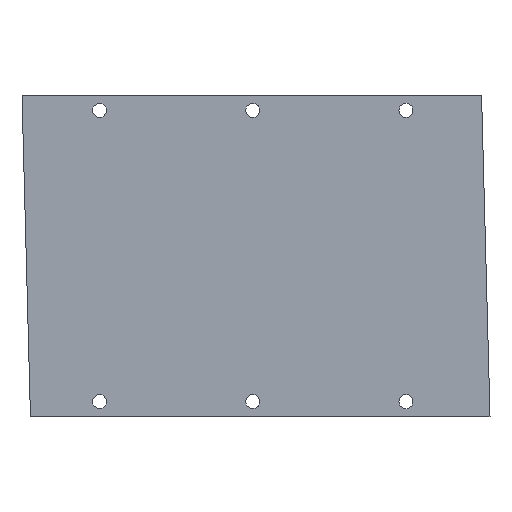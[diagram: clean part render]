
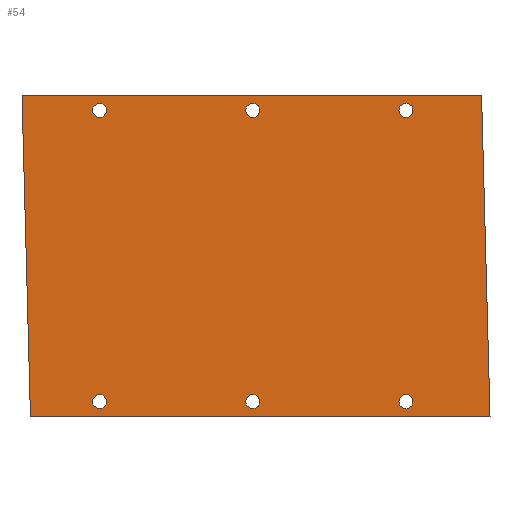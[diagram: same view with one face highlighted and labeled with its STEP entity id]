
A CAD part, front view. The second image highlights one B-rep face of the part: STEP entity #54.
In plain terms, the highlighted planar face has unit normal (0, -1, 0).
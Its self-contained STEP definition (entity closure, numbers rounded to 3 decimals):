
#3 = EDGE_LOOP ( 'NONE', ( #992, #651 ) ) ;
#9 = EDGE_CURVE ( 'NONE', #818, #912, #562, .T. ) ;
#16 = AXIS2_PLACEMENT_3D ( 'NONE', #666, #672, #771 ) ;
#20 = FACE_OUTER_BOUND ( 'NONE', #51, .T. ) ;
#27 = CARTESIAN_POINT ( 'NONE',  ( 60.37, 0., -59.75 ) ) ;
#30 = AXIS2_PLACEMENT_3D ( 'NONE', #890, #644, #822 ) ;
#34 = LINE ( 'NONE', #1093, #387 ) ;
#47 = VECTOR ( 'NONE', #1057, 1000. ) ;
#51 = EDGE_LOOP ( 'NONE', ( #466, #903, #264, #731 ) ) ;
#54 = ADVANCED_FACE ( 'NONE', ( #365, #477, #737, #250, #20, #800, #588 ), #357, .T. ) ;
#72 = AXIS2_PLACEMENT_3D ( 'NONE', #543, #291, #1081 ) ;
#74 = DIRECTION ( 'NONE',  ( 0., 0., 1. ) ) ;
#98 = AXIS2_PLACEMENT_3D ( 'NONE', #482, #932, #571 ) ;
#126 = VERTEX_POINT ( 'NONE', #739 ) ;
#127 = CIRCLE ( 'NONE', #444, 2.75 ) ;
#133 = VECTOR ( 'NONE', #856, 1000. ) ;
#135 = CARTESIAN_POINT ( 'NONE',  ( -59.63, 0., 59.75 ) ) ;
#138 = VERTEX_POINT ( 'NONE', #649 ) ;
#160 = AXIS2_PLACEMENT_3D ( 'NONE', #173, #946, #1035 ) ;
#163 = CARTESIAN_POINT ( 'NONE',  ( 60.37, 0., -57. ) ) ;
#168 = CARTESIAN_POINT ( 'NONE',  ( 0.37, 0., -59.75 ) ) ;
#173 = CARTESIAN_POINT ( 'NONE',  ( 0.37, 0., 57. ) ) ;
#178 = VERTEX_POINT ( 'NONE', #194 ) ;
#180 = VERTEX_POINT ( 'NONE', #27 ) ;
#191 = ORIENTED_EDGE ( 'NONE', *, *, #1045, .T. ) ;
#194 = CARTESIAN_POINT ( 'NONE',  ( 60.37, 0., 54.25 ) ) ;
#211 = VECTOR ( 'NONE', #741, 1000. ) ;
#217 = CARTESIAN_POINT ( 'NONE',  ( 0.37, 0., -57. ) ) ;
#220 = ORIENTED_EDGE ( 'NONE', *, *, #377, .T. ) ;
#223 = DIRECTION ( 'NONE',  ( 0., 1., 0. ) ) ;
#224 = EDGE_CURVE ( 'NONE', #126, #178, #656, .T. ) ;
#230 = DIRECTION ( 'NONE',  ( 1., 0., 0. ) ) ;
#245 = DIRECTION ( 'NONE',  ( 0., 1., 0. ) ) ;
#250 = FACE_BOUND ( 'NONE', #782, .T. ) ;
#259 = EDGE_CURVE ( 'NONE', #827, #496, #687, .T. ) ;
#264 = ORIENTED_EDGE ( 'NONE', *, *, #9, .F. ) ;
#271 = VERTEX_POINT ( 'NONE', #778 ) ;
#279 = CARTESIAN_POINT ( 'NONE',  ( -59.63, 0., 57. ) ) ;
#280 = EDGE_CURVE ( 'NONE', #271, #180, #127, .T. ) ;
#291 = DIRECTION ( 'NONE',  ( 0., 1., 0. ) ) ;
#294 = ORIENTED_EDGE ( 'NONE', *, *, #259, .T. ) ;
#319 = CIRCLE ( 'NONE', #499, 2.75 ) ;
#320 = DIRECTION ( 'NONE',  ( 0., 0., 1. ) ) ;
#332 = CARTESIAN_POINT ( 'NONE',  ( 60.37, 0., 57. ) ) ;
#342 = EDGE_CURVE ( 'NONE', #435, #851, #704, .T. ) ;
#345 = DIRECTION ( 'NONE',  ( 0., 1., 0. ) ) ;
#353 = ORIENTED_EDGE ( 'NONE', *, *, #552, .T. ) ;
#357 = PLANE ( 'NONE',  #30 ) ;
#365 = FACE_BOUND ( 'NONE', #580, .T. ) ;
#377 = EDGE_CURVE ( 'NONE', #496, #827, #591, .T. ) ;
#382 = EDGE_LOOP ( 'NONE', ( #937, #191 ) ) ;
#387 = VECTOR ( 'NONE', #230, 1000. ) ;
#393 = AXIS2_PLACEMENT_3D ( 'NONE', #217, #223, #845 ) ;
#434 = EDGE_CURVE ( 'NONE', #585, #818, #1085, .T. ) ;
#435 = VERTEX_POINT ( 'NONE', #995 ) ;
#444 = AXIS2_PLACEMENT_3D ( 'NONE', #870, #345, #773 ) ;
#464 = DIRECTION ( 'NONE',  ( 0., 1., 0. ) ) ;
#466 = ORIENTED_EDGE ( 'NONE', *, *, #628, .F. ) ;
#467 = ORIENTED_EDGE ( 'NONE', *, *, #900, .T. ) ;
#471 = CARTESIAN_POINT ( 'NONE',  ( -86.7, 0., -63. ) ) ;
#477 = FACE_BOUND ( 'NONE', #520, .T. ) ;
#482 = CARTESIAN_POINT ( 'NONE',  ( 0.37, 0., 57. ) ) ;
#493 = DIRECTION ( 'NONE',  ( 0., 1., 0. ) ) ;
#496 = VERTEX_POINT ( 'NONE', #639 ) ;
#499 = AXIS2_PLACEMENT_3D ( 'NONE', #634, #464, #727 ) ;
#511 = EDGE_CURVE ( 'NONE', #851, #435, #319, .T. ) ;
#514 = CARTESIAN_POINT ( 'NONE',  ( 90., 0., 63. ) ) ;
#517 = DIRECTION ( 'NONE',  ( 0., 1., 0. ) ) ;
#520 = EDGE_LOOP ( 'NONE', ( #467, #638 ) ) ;
#543 = CARTESIAN_POINT ( 'NONE',  ( -59.63, 0., -57. ) ) ;
#552 = EDGE_CURVE ( 'NONE', #960, #138, #693, .T. ) ;
#562 = LINE ( 'NONE', #964, #47 ) ;
#571 = DIRECTION ( 'NONE',  ( 0., 0., 1. ) ) ;
#580 = EDGE_LOOP ( 'NONE', ( #220, #294 ) ) ;
#585 = VERTEX_POINT ( 'NONE', #1069 ) ;
#588 = FACE_BOUND ( 'NONE', #3, .T. ) ;
#591 = CIRCLE ( 'NONE', #98, 2.75 ) ;
#593 = CARTESIAN_POINT ( 'NONE',  ( -59.63, 0., -57. ) ) ;
#599 = DIRECTION ( 'NONE',  ( 0., 0., 1. ) ) ;
#626 = EDGE_CURVE ( 'NONE', #138, #960, #1029, .T. ) ;
#628 = EDGE_CURVE ( 'NONE', #763, #585, #997, .T. ) ;
#631 = CIRCLE ( 'NONE', #744, 2.75 ) ;
#634 = CARTESIAN_POINT ( 'NONE',  ( -59.63, 0., 57. ) ) ;
#638 = ORIENTED_EDGE ( 'NONE', *, *, #692, .T. ) ;
#639 = CARTESIAN_POINT ( 'NONE',  ( 0.37, 0., 59.75 ) ) ;
#644 = DIRECTION ( 'NONE',  ( 0., -1., 0. ) ) ;
#649 = CARTESIAN_POINT ( 'NONE',  ( -59.63, 0., -59.75 ) ) ;
#651 = ORIENTED_EDGE ( 'NONE', *, *, #695, .T. ) ;
#656 = CIRCLE ( 'NONE', #852, 2.75 ) ;
#666 = CARTESIAN_POINT ( 'NONE',  ( 0.37, 0., -57. ) ) ;
#672 = DIRECTION ( 'NONE',  ( 0., 1., 0. ) ) ;
#687 = CIRCLE ( 'NONE', #160, 2.75 ) ;
#692 = EDGE_CURVE ( 'NONE', #760, #1036, #1058, .T. ) ;
#693 = CIRCLE ( 'NONE', #72, 2.75 ) ;
#695 = EDGE_CURVE ( 'NONE', #178, #126, #1094, .T. ) ;
#704 = CIRCLE ( 'NONE', #705, 2.75 ) ;
#705 = AXIS2_PLACEMENT_3D ( 'NONE', #279, #517, #599 ) ;
#725 = DIRECTION ( 'NONE',  ( 0., 1., 0. ) ) ;
#727 = DIRECTION ( 'NONE',  ( 0., 0., 1. ) ) ;
#731 = ORIENTED_EDGE ( 'NONE', *, *, #434, .F. ) ;
#737 = FACE_BOUND ( 'NONE', #1051, .T. ) ;
#739 = CARTESIAN_POINT ( 'NONE',  ( 60.37, 0., 59.75 ) ) ;
#741 = DIRECTION ( 'NONE',  ( -1., 0., 0. ) ) ;
#744 = AXIS2_PLACEMENT_3D ( 'NONE', #163, #774, #74 ) ;
#754 = CARTESIAN_POINT ( 'NONE',  ( 0.37, 0., 54.25 ) ) ;
#760 = VERTEX_POINT ( 'NONE', #168 ) ;
#763 = VERTEX_POINT ( 'NONE', #514 ) ;
#771 = DIRECTION ( 'NONE',  ( 0., 0., 1. ) ) ;
#772 = AXIS2_PLACEMENT_3D ( 'NONE', #332, #493, #320 ) ;
#773 = DIRECTION ( 'NONE',  ( 0., 0., 1. ) ) ;
#774 = DIRECTION ( 'NONE',  ( 0., 1., 0. ) ) ;
#778 = CARTESIAN_POINT ( 'NONE',  ( 60.37, 0., -54.25 ) ) ;
#782 = EDGE_LOOP ( 'NONE', ( #1018, #797 ) ) ;
#797 = ORIENTED_EDGE ( 'NONE', *, *, #342, .T. ) ;
#800 = FACE_BOUND ( 'NONE', #382, .T. ) ;
#815 = CARTESIAN_POINT ( 'NONE',  ( 60.37, 0., 57. ) ) ;
#818 = VERTEX_POINT ( 'NONE', #471 ) ;
#822 = DIRECTION ( 'NONE',  ( 0., 0., -1. ) ) ;
#827 = VERTEX_POINT ( 'NONE', #754 ) ;
#845 = DIRECTION ( 'NONE',  ( 0., 0., 1. ) ) ;
#849 = DIRECTION ( 'NONE',  ( 0., 0., 1. ) ) ;
#851 = VERTEX_POINT ( 'NONE', #135 ) ;
#852 = AXIS2_PLACEMENT_3D ( 'NONE', #815, #725, #983 ) ;
#854 = CARTESIAN_POINT ( 'NONE',  ( 93.3, 0., -63. ) ) ;
#856 = DIRECTION ( 'NONE',  ( 0.026, 0., -1. ) ) ;
#869 = EDGE_CURVE ( 'NONE', #912, #763, #34, .T. ) ;
#870 = CARTESIAN_POINT ( 'NONE',  ( 60.37, 0., -57. ) ) ;
#890 = CARTESIAN_POINT ( 'NONE',  ( 0., 0., 0. ) ) ;
#900 = EDGE_CURVE ( 'NONE', #1036, #760, #934, .T. ) ;
#903 = ORIENTED_EDGE ( 'NONE', *, *, #869, .F. ) ;
#911 = AXIS2_PLACEMENT_3D ( 'NONE', #593, #245, #849 ) ;
#912 = VERTEX_POINT ( 'NONE', #1090 ) ;
#932 = DIRECTION ( 'NONE',  ( 0., 1., 0. ) ) ;
#934 = CIRCLE ( 'NONE', #393, 2.75 ) ;
#937 = ORIENTED_EDGE ( 'NONE', *, *, #280, .T. ) ;
#946 = DIRECTION ( 'NONE',  ( 0., 1., 0. ) ) ;
#951 = CARTESIAN_POINT ( 'NONE',  ( 0.37, 0., -54.25 ) ) ;
#960 = VERTEX_POINT ( 'NONE', #1102 ) ;
#962 = ORIENTED_EDGE ( 'NONE', *, *, #626, .T. ) ;
#964 = CARTESIAN_POINT ( 'NONE',  ( -90., 0., 63. ) ) ;
#983 = DIRECTION ( 'NONE',  ( 0., 0., 1. ) ) ;
#992 = ORIENTED_EDGE ( 'NONE', *, *, #224, .T. ) ;
#995 = CARTESIAN_POINT ( 'NONE',  ( -59.63, 0., 54.25 ) ) ;
#997 = LINE ( 'NONE', #854, #133 ) ;
#1018 = ORIENTED_EDGE ( 'NONE', *, *, #511, .T. ) ;
#1029 = CIRCLE ( 'NONE', #911, 2.75 ) ;
#1035 = DIRECTION ( 'NONE',  ( 0., 0., 1. ) ) ;
#1036 = VERTEX_POINT ( 'NONE', #951 ) ;
#1045 = EDGE_CURVE ( 'NONE', #180, #271, #631, .T. ) ;
#1051 = EDGE_LOOP ( 'NONE', ( #353, #962 ) ) ;
#1057 = DIRECTION ( 'NONE',  ( -0.026, 0., 1. ) ) ;
#1058 = CIRCLE ( 'NONE', #16, 2.75 ) ;
#1069 = CARTESIAN_POINT ( 'NONE',  ( 93.3, 0., -63. ) ) ;
#1081 = DIRECTION ( 'NONE',  ( 0., 0., 1. ) ) ;
#1085 = LINE ( 'NONE', #1089, #211 ) ;
#1089 = CARTESIAN_POINT ( 'NONE',  ( -86.7, 0., -63. ) ) ;
#1090 = CARTESIAN_POINT ( 'NONE',  ( -90., 0., 63. ) ) ;
#1093 = CARTESIAN_POINT ( 'NONE',  ( 90., 0., 63. ) ) ;
#1094 = CIRCLE ( 'NONE', #772, 2.75 ) ;
#1102 = CARTESIAN_POINT ( 'NONE',  ( -59.63, 0., -54.25 ) ) ;
